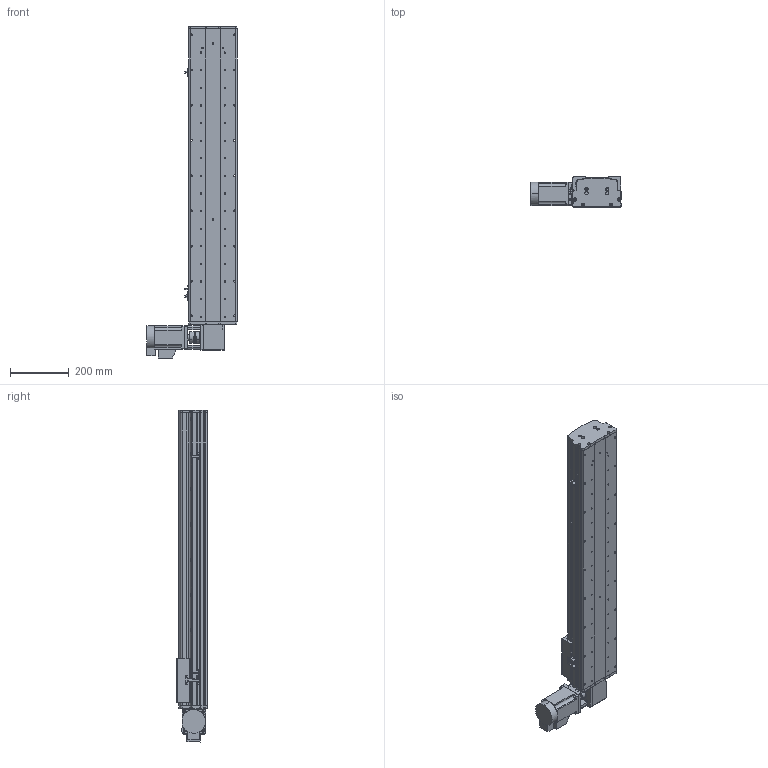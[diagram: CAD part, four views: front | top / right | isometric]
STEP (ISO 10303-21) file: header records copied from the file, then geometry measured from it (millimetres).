
FILE_DESCRIPTION (( 'STEP AP214' ), '1' );
FILE_NAME ('KSD165B-S750-MRT-CM.STEP', '2017-10-17T01:23:11', ( '微软用户' ), ( '微软中国' ), 'SwSTEP 2.0', 'SolidWorks 2014', '' );
FILE_SCHEMA (( 'AUTOMOTIVE_DESIGN' ));
Length unit declared in the file: millimetre
Products named in the file (16): KSD165模组-同步带滑动座-最新版; KSD165B-S750-MRT-CM; 165宽马达安装板同步带左-改; KSD165模组-同步带防尘盖1-750行程-最新版; KSD165模组同步带底板-750行程-最新; 拸秶雄ん750W侜督萇儂; 165宽安装板同步带带电机座750W; C39ㄜ1419WP; U倰嫖萇假蚾璃; U倰嫖萇EEㄜSX672; 覜茼え68遵圉猾敕; KSD165模组-同步带-防撞垫2; KSD165模组同步带-防撞垫1; KSD165耀郪-ヶ傷啣1-肮祭湍; KSD165模组-后端板1-同步带; 130宽马达安装板1-带电机座750W（1）
Assembly tree (19 placements, depth 2):
  KSD165B-S750-MRT-CM
    KSD165模组-同步带滑动座-最新版
    130宽马达安装板1-带电机座750W（1）
    KSD165模组-后端板1-同步带
    KSD165耀郪-ヶ傷啣1-肮祭湍
    KSD165模组同步带-防撞垫1
    KSD165模组-同步带-防撞垫2
    覜茼え68遵圉猾敕
    U倰嫖萇EEㄜSX672  x3
    U倰嫖萇假蚾璃  x3
    C39ㄜ1419WP
    165宽安装板同步带带电机座750W
    拸秶雄ん750W侜督萇儂
    KSD165模组同步带底板-750行程-最新
    KSD165模组-同步带防尘盖1-750行程-最新版
    165宽马达安装板同步带左-改
Bounding box: 307.5 x 104 x 1131.06 mm (x, y, z)
Volume: 6756312.3 mm3; surface area: 1516876.9 mm2
Topology: 20 solids, 21 shells, 1482 faces, 4116 edges, 2665 vertices
Faces by surface type: cylinder 809, plane 579, cone 94
Entity records: 46995 total; most frequent: CARTESIAN_POINT 9847, DIRECTION 7314, ORIENTED_EDGE 6884, EDGE_CURVE 3442, AXIS2_PLACEMENT_3D 2780, VERTEX_POINT 2257, VECTOR 1754, LINE 1754
